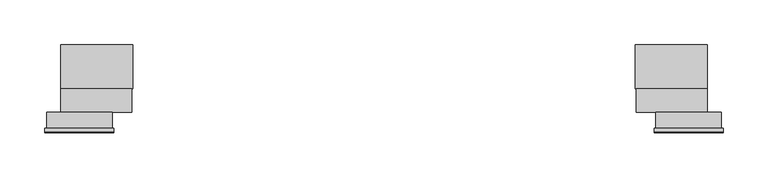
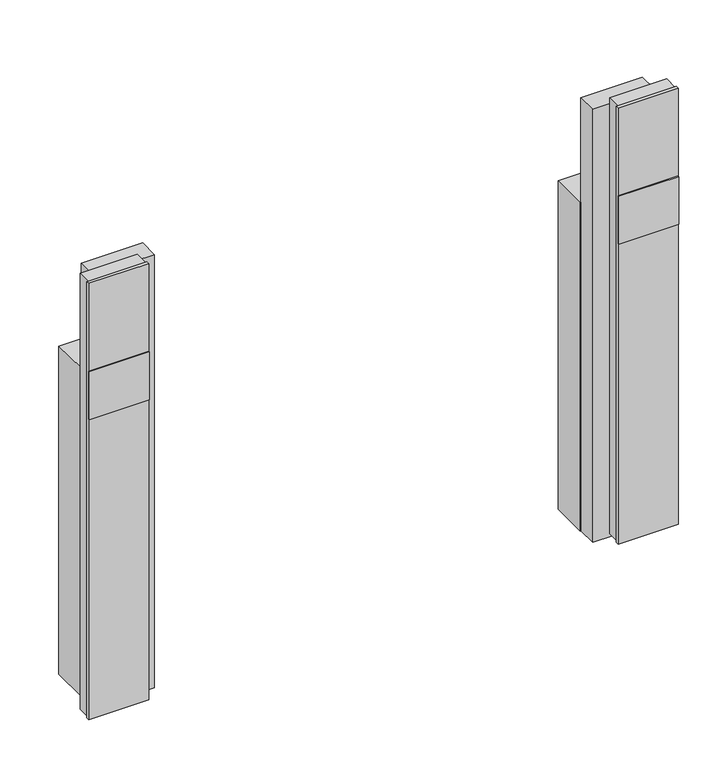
"""IFC4 building model written with IfcOpenShell, lengths in millimetres: proxy geometry, 11515790_USA_EBA7868_EDST-CLST : 29992965_USA_11515790_EBA7868_EDST-CLST."""

import ifcopenshell
import ifcopenshell.guid

model = None  # the IFC model being written
_history = None  # IfcOwnerHistory: only IFC2X3 demands one
_inside = {}  # id of a spatial element -> (the spatial element, [elements in it])
_under = {}  # id of a project, library or spatial element -> (it, [spatial elements below it])
_declared = {}  # id of a project -> (the project, [libraries it declares])
_typed = {}  # id of a type object -> (the type object, [elements of that type])
_made_of = {}  # id of a material, layer set ... -> (it, [elements and type objects made of it])


def new_model(schema):
    """Start an empty IFC model of exactly this schema.

    Asked for "IFC4X3", IfcOpenShell would pick the latest addendum, in which some entities
    have other attributes; the version numbers below select the first issue.
    IFC2X3 requires an IfcOwnerHistory on every rooted entity: one is made here for all.
    """
    global model, _history
    if schema == "IFC4X3":
        model = ifcopenshell.file(schema_version=(4, 3, 0, 0))
    else:
        model = ifcopenshell.file(schema=schema)
    _inside.clear()
    _under.clear()
    _declared.clear()
    _typed.clear()
    _made_of.clear()
    _history = None
    if model.schema == "IFC2X3":
        org = make("IfcOrganization", Name="unknown")
        user = make(
            "IfcPersonAndOrganization",
            ThePerson=make("IfcPerson", FamilyName="unknown"),
            TheOrganization=org,
        )
        app = make(
            "IfcApplication",
            ApplicationDeveloper=org,
            Version="unknown",
            ApplicationFullName="unknown",
            ApplicationIdentifier="unknown",
        )
        _history = make(
            "IfcOwnerHistory",
            OwningUser=user,
            OwningApplication=app,
            ChangeAction="ADDED",
            CreationDate=0,
        )
    return model


def make(cls, **values):
    """One entity of the class cls with the attributes given. An attribute that is None is left unset."""
    return model.create_entity(
        cls, **{name: value for name, value in values.items() if value is not None}
    )


def rooted(cls, **values):
    """An entity with a GlobalId (a new one), such as an element, a storey or a relation."""
    return make(cls, GlobalId=ifcopenshell.guid.new(), OwnerHistory=_history, **values)


def si_unit(unit_type, name, prefix=None):
    """IfcSIUnit, for example si_unit("LENGTHUNIT", "METRE", prefix="MILLI")."""
    return make("IfcSIUnit", UnitType=unit_type, Prefix=prefix, Name=name)


def assignment(units):
    """IfcUnitAssignment: the units of a project."""
    return None if units is None else make("IfcUnitAssignment", Units=units)


def point(xyz):
    """IfcCartesianPoint."""
    return None if xyz is None else make("IfcCartesianPoint", Coordinates=xyz)


def direction(xyz):
    """IfcDirection."""
    return None if xyz is None else make("IfcDirection", DirectionRatios=xyz)


def frame(location, z_axis=None, x_axis=None):
    """IfcAxis2Placement3D, a coordinate frame: its origin and axes. An axis left out is left unset."""
    return make(
        "IfcAxis2Placement3D",
        Location=point(location),
        Axis=direction(z_axis),
        RefDirection=direction(x_axis),
    )


def origin():
    """The frame at (0, 0, 0) with its axes left unset."""
    return frame((0.0, 0.0, 0.0))


def origin_with_axes():
    """The frame at (0, 0, 0) with the z axis (0, 0, 1) and the x axis (1, 0, 0) written out."""
    return frame((0.0, 0.0, 0.0), z_axis=(0.0, 0.0, 1.0), x_axis=(1.0, 0.0, 0.0))


def place(relative_to, where):
    """IfcLocalPlacement: puts the frame where relative to a parent placement (None: the world)."""
    return make(
        "IfcLocalPlacement", PlacementRelTo=relative_to, RelativePlacement=where
    )


def context(
    kind, dimensions, precision=None, world=None, true_north=None, identifier=None
):
    """IfcGeometricRepresentationContext, for example the 3D "Model" context."""
    return make(
        "IfcGeometricRepresentationContext",
        ContextIdentifier=identifier,
        ContextType=kind,
        CoordinateSpaceDimension=dimensions,
        Precision=precision,
        WorldCoordinateSystem=world,
        TrueNorth=true_north,
    )


def project(units=None, contexts=None):
    """IfcProject with its units and contexts."""
    return rooted(
        "IfcProject",
        Name="project",
        RepresentationContexts=contexts,
        UnitsInContext=assignment(units),
    )


def spatial(cls, under=None, at=None, **own):
    """A site, building, storey or space (cls), placed at a placement, below another one or the project."""
    s = rooted(cls, ObjectPlacement=at, **own)
    if under is not None:
        _under.setdefault(under.id(), (under, []))[1].append(s)
    return s


def polyline(points):
    """IfcPolyline through the points."""
    return make("IfcPolyline", Points=[point(p) for p in points])


def outline(outer, holes=None, kind="AREA"):
    """IfcArbitraryClosedProfileDef: a profile drawn as a closed curve; with holes, ...WithVoids."""
    if holes is None:
        return make("IfcArbitraryClosedProfileDef", ProfileType=kind, OuterCurve=outer)
    return make(
        "IfcArbitraryProfileDefWithVoids",
        ProfileType=kind,
        OuterCurve=outer,
        InnerCurves=holes,
    )


def extrude(swept, where, along, depth):
    """IfcExtrudedAreaSolid: the profile swept, set in the frame where, extruded along a direction by depth."""
    return make(
        "IfcExtrudedAreaSolid",
        SweptArea=swept,
        Position=where,
        ExtrudedDirection=direction(along),
        Depth=depth,
    )


def shape(context_of_items, identifier, shape_type, items):
    """IfcShapeRepresentation: the items that make up one representation, for example the "Body"."""
    return make(
        "IfcShapeRepresentation",
        ContextOfItems=context_of_items,
        RepresentationIdentifier=identifier,
        RepresentationType=shape_type,
        Items=items,
    )


def source(mapping_origin, context_of_items, identifier, shape_type, items):
    """IfcRepresentationMap: a shape defined once, which mapped items show again and again."""
    return make(
        "IfcRepresentationMap",
        MappingOrigin=mapping_origin,
        MappedRepresentation=shape(context_of_items, identifier, shape_type, items),
    )


def transform(
    local_origin,
    x_axis=None,
    y_axis=None,
    z_axis=None,
    scale=None,
    scale2=None,
    scale3=None,
    uniform=True,
):
    """IfcCartesianTransformationOperator3D, or its non-uniform kind. x_axis, y_axis, z_axis: its Axis1, 2, 3."""
    if uniform:
        return make(
            "IfcCartesianTransformationOperator3D",
            Axis1=direction(x_axis),
            Axis2=direction(y_axis),
            LocalOrigin=point(local_origin),
            Scale=scale,
            Axis3=direction(z_axis),
        )
    return make(
        "IfcCartesianTransformationOperator3DnonUniform",
        Axis1=direction(x_axis),
        Axis2=direction(y_axis),
        LocalOrigin=point(local_origin),
        Scale=scale,
        Axis3=direction(z_axis),
        Scale2=scale2,
        Scale3=scale3,
    )


def mapped(mapping_source, mapping_target):
    """IfcMappedItem: shows the shape of a source again, moved by a transform."""
    return make(
        "IfcMappedItem", MappingSource=mapping_source, MappingTarget=mapping_target
    )


def made_of(thing, what):
    """Note that an element or type object is made of a material, layer set ...; save() writes the relation."""
    if what is not None:
        _made_of.setdefault(what.id(), (what, []))[1].append(thing)
    return thing


def element(
    cls,
    number,
    at=None,
    inside=None,
    cuts=None,
    type_object=None,
    material=None,
    context=None,
    identifier="Body",
    shape_type=None,
    held_by="IfcProductDefinitionShape",
    body=None,
    shapes=None,
    **own,
):
    """One element of the class cls, such as IfcWall. Its Tag is "e" and its number.

    at: its placement. inside: the storey or other place that contains it. cuts: it is an
    opening in that element (IfcRelVoidsElement). A single representation is given by context,
    identifier, shape_type and body (its items); several are given by shapes. held_by: the class
    of the entity that holds the representations. save() writes the other relations.
    """
    e = rooted(cls, Tag="e%d" % number, ObjectPlacement=at, **own)
    if body is not None:
        shapes = [shape(context, identifier, shape_type, body)]
    if shapes is not None:
        e.Representation = make(held_by, Representations=shapes)
    if inside is not None:
        _inside.setdefault(inside.id(), (inside, []))[1].append(e)
    if cuts is not None:
        rooted(
            "IfcRelVoidsElement", RelatingBuildingElement=cuts, RelatedOpeningElement=e
        )
    if type_object is not None:
        _typed.setdefault(type_object.id(), (type_object, []))[1].append(e)
    return made_of(e, material)


def aggregate(whole, parts):
    """IfcRelAggregates: a whole, such as a stair, and the parts it consists of."""
    return rooted("IfcRelAggregates", RelatingObject=whole, RelatedObjects=parts)


def save(model, path):
    """Write the relations noted so far, then the file.

    IfcRelAggregates (storeys below a building ...), IfcRelContainedInSpatialStructure (elements
    in a storey), IfcRelDefinesByType, IfcRelAssociatesMaterial and IfcRelDeclares: one each for
    every whole, place, type object, material and project.
    """
    for whole, parts in _under.values():
        aggregate(whole, parts)
    for where, things in _inside.values():
        rooted(
            "IfcRelContainedInSpatialStructure",
            RelatedElements=things,
            RelatingStructure=where,
        )
    for kind, things in _typed.values():
        rooted("IfcRelDefinesByType", RelatedObjects=things, RelatingType=kind)
    for what, things in _made_of.values():
        rooted("IfcRelAssociatesMaterial", RelatedObjects=things, RelatingMaterial=what)
    for by, libraries in _declared.values():
        rooted("IfcRelDeclares", RelatingContext=by, RelatedDefinitions=libraries)
    model.write(path)


def specialty_equipment_bb4cf7f8(model_context):
    return source(origin(), model_context, "Body", "SweptSolid", [
        extrude(outline(polyline([(-301.5, -23.3), (-378.5, -23.3), (-378.5, -22.0), (-301.5, -22.0), (-301.5, -23.3)])), frame((0.0, 0.0, 412.0), z_axis=(0.0, 0.0, 1.0), x_axis=(1.0, 0.0, 0.0)), (0.0, 0.0, 1.0), 65.0),
        extrude(outline(polyline([(378.5, -23.3), (301.5, -23.3), (301.5, -22.0), (378.5, -22.0), (378.5, -23.3)])), frame((0.0, 0.0, 412.0), z_axis=(0.0, 0.0, 1.0), x_axis=(1.0, 0.0, 0.0)), (0.0, 0.0, 1.0), 65.0),
        extrude(outline(polyline([(-378.5, -18.0), (-301.5, -18.0), (-301.5, -22.0), (-378.5, -22.0), (-378.5, -18.0)])), frame((0.0, 0.0, 4.0), z_axis=(0.0, 0.0, 1.0), x_axis=(1.0, 0.0, 0.0)), (0.0, 0.0, 1.0), 592.0),
        extrude(outline(polyline([(301.5, -18.0), (378.5, -18.0), (378.5, -22.0), (301.5, -22.0), (301.5, -18.0)])), frame((0.0, 0.0, 4.0), z_axis=(0.0, 0.0, 1.0), x_axis=(1.0, 0.0, 0.0)), (0.0, 0.0, 1.0), 592.0),
        extrude(outline(polyline([(-376.5, 0.0), (-303.5, 0.0), (-303.5, -18.0), (-376.5, -18.0), (-376.5, 0.0)])), frame((0.0, 0.0, 4.0), z_axis=(0.0, 0.0, 1.0), x_axis=(1.0, 0.0, 0.0)), (0.0, 0.0, 1.0), 592.0),
        extrude(outline(polyline([(303.5, 0.0), (376.5, 0.0), (376.5, -18.0), (303.5, -18.0), (303.5, 0.0)])), frame((0.0, 0.0, 4.0), z_axis=(0.0, 0.0, 1.0), x_axis=(1.0, 0.0, 0.0)), (0.0, 0.0, 1.0), 592.0),
        extrude(outline(polyline([(280.5, 75.0), (360.5, 75.0), (360.5, 26.0), (280.5, 26.0), (280.5, 75.0)])), origin_with_axes(), (0.0, 0.0, 1.0), 446.0),
        extrude(outline(polyline([(-360.5, 75.0), (-280.5, 75.0), (-280.5, 26.0), (-360.5, 26.0), (-360.5, 75.0)])), origin_with_axes(), (0.0, 0.0, 1.0), 446.0),
        extrude(outline(polyline([(281.5, 26.0), (360.5, 26.0), (360.5, 0.0), (281.5, 0.0), (281.5, 26.0)])), origin_with_axes(), (0.0, 0.0, 1.0), 588.0),
        extrude(outline(polyline([(-360.5, 26.0), (-281.5, 26.0), (-281.5, 0.0), (-360.5, 0.0), (-360.5, 26.0)])), origin_with_axes(), (0.0, 0.0, 1.0), 588.0),
    ])


if __name__ == "__main__":
    model = new_model("IFC4")
    model_context = context("Model", 3, world=origin())
    ifc_project = project(units=[si_unit("LENGTHUNIT", "METRE", prefix="MILLI")], contexts=[model_context])
    site = spatial("IfcSite", under=ifc_project)
    building = spatial("IfcBuilding", under=site)
    placement = place(None, origin())
    specialty_equipment_shape = specialty_equipment_bb4cf7f8(model_context)
    element("IfcBuildingElementProxy", 1, Name="11515790_USA_EBA7868_EDST-CLST : 29992965_USA_11515790_EBA7868_EDST-CLST", ObjectType="11515790_USA_EBA7868_EDST-CLST : 29992965_USA_11515790_EBA7868_EDST-CLST", at=placement, inside=building, context=model_context, shape_type="MappedRepresentation", body=[
        mapped(specialty_equipment_shape, transform((0.0, 0.0, 0.0), x_axis=(1.0, 0.0, 0.0), y_axis=(0.0, 1.0, 0.0), z_axis=(0.0, 0.0, 1.0))),
    ])
    save(model, "model.ifc")
